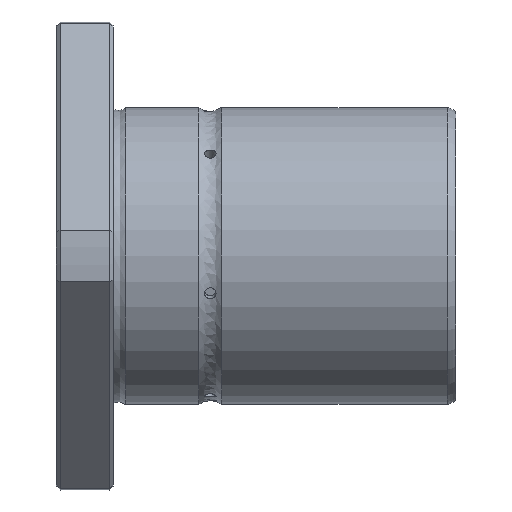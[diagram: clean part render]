
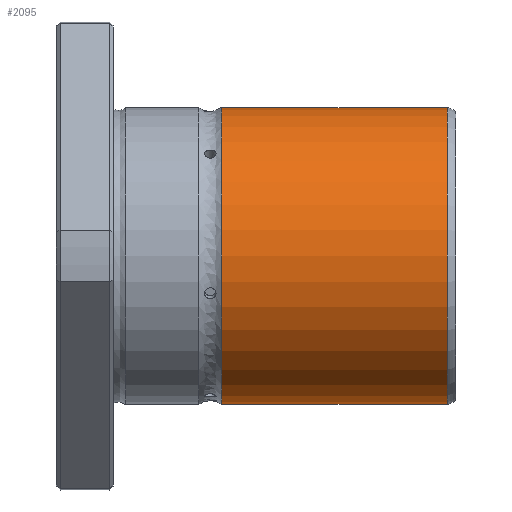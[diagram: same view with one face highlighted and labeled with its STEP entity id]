
A CAD part, front view. The second image highlights one B-rep face of the part: STEP entity #2095.
In plain terms, the highlighted cylindrical face has radius 26 mm (diameter 52 mm), a full revolution.
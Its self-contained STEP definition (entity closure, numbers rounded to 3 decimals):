
#2061=CARTESIAN_POINT('',(68.502,0.0,26.));
#2062=VERTEX_POINT('',#2061);
#2063=CARTESIAN_POINT('',(68.502,0.0,0.0));
#2064=DIRECTION('',(-1.0,0.0,0.0));
#2065=DIRECTION('',(0.0,0.0,1.0));
#2066=AXIS2_PLACEMENT_3D('',#2063,#2064,#2065);
#2067=CIRCLE('',#2066,26.);
#2068=EDGE_CURVE('',#2062,#2062,#2067,.T.);
#2076=CARTESIAN_POINT('',(48.743,0.0,0.0));
#2077=DIRECTION('',(-1.0,0.0,0.0));
#2078=DIRECTION('',(0.0,0.0,1.0));
#2079=AXIS2_PLACEMENT_3D('',#2076,#2077,#2078);
#2080=CYLINDRICAL_SURFACE('',#2079,26.);
#2081=CARTESIAN_POINT('',(28.984,0.0,26.));
#2082=VERTEX_POINT('',#2081);
#2083=CARTESIAN_POINT('',(28.984,0.0,0.0));
#2084=DIRECTION('',(-1.0,0.0,0.0));
#2085=DIRECTION('',(0.0,0.0,1.0));
#2086=AXIS2_PLACEMENT_3D('',#2083,#2084,#2085);
#2087=CIRCLE('',#2086,26.);
#2088=EDGE_CURVE('',#2082,#2082,#2087,.T.);
#2089=ORIENTED_EDGE('',*,*,#2088,.F.);
#2090=EDGE_LOOP('',(#2089));
#2091=FACE_OUTER_BOUND('',#2090,.T.);
#2092=ORIENTED_EDGE('',*,*,#2068,.T.);
#2093=EDGE_LOOP('',(#2092));
#2094=FACE_BOUND('',#2093,.T.);
#2095=ADVANCED_FACE('',(#2091,#2094),#2080,.T.);
